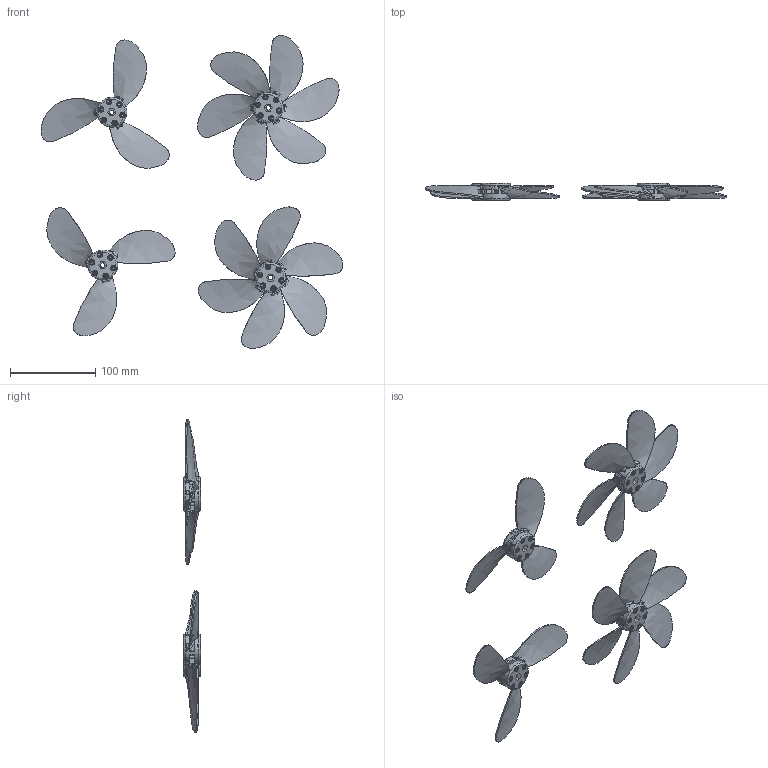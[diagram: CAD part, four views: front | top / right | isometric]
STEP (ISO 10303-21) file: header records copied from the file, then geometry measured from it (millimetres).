
FILE_DESCRIPTION(/* description */ (''),/* implementation_level */ '2;1');
FILE_NAME(/* name */ 'Assieme2.stp',/* time_stamp */ '2025-01-31T21:20:55+01:00',/* author */ ('R5800u'),/* organization */ (''),/* preprocessor_version */ 'ST-DEVELOPER v20',/* originating_system */ 'Autodesk Inventor 2025',/* authorisation */ '');
FILE_SCHEMA (('AUTOMOTIVE_DESIGN { 1 0 10303 214 3 1 1 }'));
Length unit declared in the file: millimetre
Products named in the file (9): Assieme2; Assieme_componibile_6p_b; Assieme_componibile_3p_b; Assieme_componibile_3p; Assieme_componibile_6p; blocco_centrale; fan_assembla; AS 1420 - 1973 - M3 x 16; dado_quadrato_m3
Assembly tree (74 placements, depth 3):
  Assieme2
    Assieme_componibile_6p_b
      blocco_centrale
      AS 1420 - 1973 - M3 x 16  x6
      dado_quadrato_m3  x6
      fan_assembla  x6
    Assieme_componibile_3p_b
      blocco_centrale
      AS 1420 - 1973 - M3 x 16  x6
      dado_quadrato_m3  x6
      fan_assembla  x3
    Assieme_componibile_3p
      blocco_centrale
      fan_assembla  x3
      AS 1420 - 1973 - M3 x 16  x6
      dado_quadrato_m3  x6
    Assieme_componibile_6p
      blocco_centrale
      fan_assembla  x6
      AS 1420 - 1973 - M3 x 16  x6
      dado_quadrato_m3  x6
Bounding box: 354.38 x 20 x 367.29 mm (x, y, z)
Volume: 135022.9 mm3; surface area: 133012.2 mm2
Topology: 70 solids, 70 shells, 1616 faces, 4272 edges, 2872 vertices
Faces by surface type: plane 850, cylinder 446, bspline 216, torus 56, cone 48
Full cylindrical faces by diameter (mm): 2.459 x24, 3 x90, 3.2 x24, 5.3 x4, 5.5 x24, 6.5 x24, 35 x4
Entity records: 7796 total; most frequent: CARTESIAN_POINT 3023, DIRECTION 939, ORIENTED_EDGE 846, EDGE_CURVE 423, AXIS2_PLACEMENT_3D 357, VERTEX_POINT 284, LINE 225, VECTOR 225
